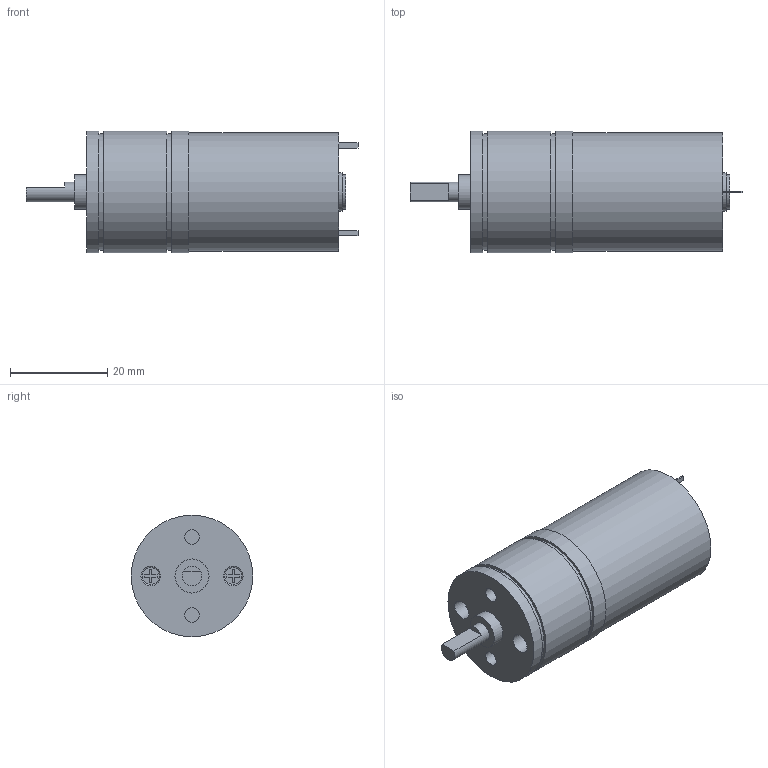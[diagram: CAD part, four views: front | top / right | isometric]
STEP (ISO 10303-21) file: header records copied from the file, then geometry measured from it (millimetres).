
FILE_DESCRIPTION(/* description */ ('STEP AP242 Edition 2','CAx-IF Rec.Pracs.---Representation and Presentation of Product Manufacturing Information (PMI)---4.0---2014-10-13','CAx-IF Rec.Pracs.---3D Tessellated Geometry---0.4---2014-09-14','2;1','CAx-IF Rec.Pracs.---User Defined Attributes---1.5---2016-08-15'),/* implementation_level */ '2;1');
FILE_NAME(/* name */ 'Assem2h - Metal-gear-motor_47_1 (3)',/* time_stamp */ '2025-12-01T14:50:25Z',/* author */ (''),/* organization */ (''),/* preprocessor_version */ 'ST-DEVELOPER v20',/* originating_system */ 'ONSHAPE BY PTC INC, 1.207',/* authorisation */ ' ');
FILE_SCHEMA (('AP242_MANAGED_MODEL_BASED_3D_ENGINEERING_MIM_LF { 1 0 10303 442 3 1 4 }'));
Length unit declared in the file: metre
Products named in the file (1): Metal-gear-motor_47_1
Bounding box: 68.3 x 25 x 25 mm (x, y, z)
Volume: 24615.9 mm3; surface area: 5711.6 mm2
Topology: 1 solids, 2 shells, 72 faces, 153 edges, 102 vertices
Faces by surface type: plane 55, cylinder 15, torus 2
Full cylindrical faces by diameter (mm): 3 x2, 4 x3, 4.4 x1, 7 x2, 8 x1, 24 x2, 24.4 x1, 25 x3
Entity records: 1940 total; most frequent: DIRECTION 312, CARTESIAN_POINT 305, ORIENTED_EDGE 266, EDGE_CURVE 133, EDGE_LOOP 106, FACE_BOUND 106, AXIS2_PLACEMENT_3D 106, LINE 100
